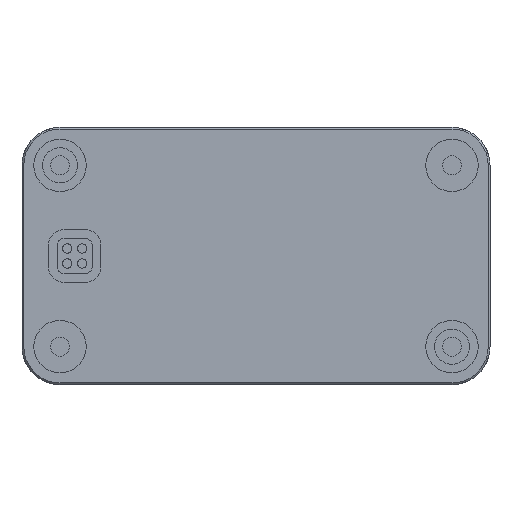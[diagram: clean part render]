
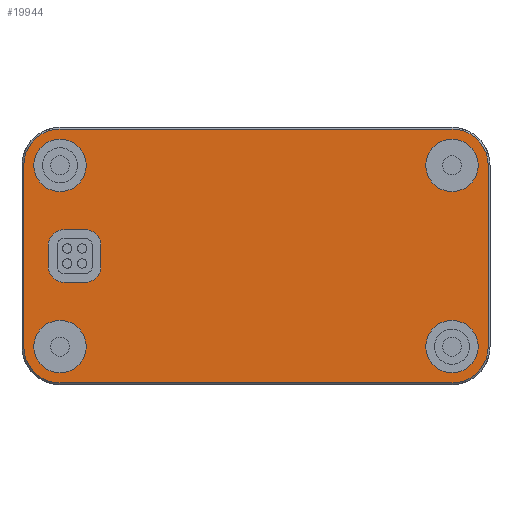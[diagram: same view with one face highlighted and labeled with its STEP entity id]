
A CAD part, front view. The second image highlights one B-rep face of the part: STEP entity #19944.
In plain terms, the highlighted planar face has unit normal (0, -1, 0).
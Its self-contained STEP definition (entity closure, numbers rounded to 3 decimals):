
#1718=FACE_BOUND('',#4384,.T.);
#1719=FACE_BOUND('',#4385,.T.);
#1720=FACE_BOUND('',#4386,.T.);
#1721=FACE_BOUND('',#4387,.T.);
#1722=FACE_BOUND('',#4388,.T.);
#2137=PLANE('',#20781);
#3185=FACE_OUTER_BOUND('',#4383,.T.);
#4383=EDGE_LOOP('',(#18123,#18124,#18125,#18126,#18127,#18128,#18129,#18130));
#4384=EDGE_LOOP('',(#18131,#18132,#18133,#18134,#18135,#18136,#18137,#18138));
#4385=EDGE_LOOP('',(#18139));
#4386=EDGE_LOOP('',(#18140));
#4387=EDGE_LOOP('',(#18141));
#4388=EDGE_LOOP('',(#18142));
#4566=LINE('',#24433,#6212);
#4569=LINE('',#24441,#6215);
#4572=LINE('',#24449,#6218);
#4575=LINE('',#24456,#6221);
#5987=LINE('',#44382,#7633);
#5991=LINE('',#44391,#7637);
#5994=LINE('',#44399,#7640);
#5997=LINE('',#44407,#7643);
#6212=VECTOR('',#21124,10.);
#6215=VECTOR('',#21133,10.);
#6218=VECTOR('',#21142,10.);
#6221=VECTOR('',#21151,10.);
#7633=VECTOR('',#23643,10.);
#7637=VECTOR('',#23653,10.);
#7640=VECTOR('',#23662,10.);
#7643=VECTOR('',#23671,10.);
#7852=CIRCLE('',#20219,2.7);
#7853=CIRCLE('',#20222,2.7);
#7854=CIRCLE('',#20225,2.7);
#7855=CIRCLE('',#20228,2.7);
#7962=CIRCLE('',#20771,6.2);
#7963=CIRCLE('',#20774,6.2);
#7964=CIRCLE('',#20777,6.2);
#7965=CIRCLE('',#20780,6.2);
#7966=CIRCLE('',#20782,4.485);
#7967=CIRCLE('',#20783,4.485);
#7968=CIRCLE('',#20784,4.485);
#7969=CIRCLE('',#20785,4.485);
#8102=VERTEX_POINT('',#24426);
#8103=VERTEX_POINT('',#24428);
#8104=VERTEX_POINT('',#24432);
#8105=VERTEX_POINT('',#24436);
#8106=VERTEX_POINT('',#24440);
#8107=VERTEX_POINT('',#24444);
#8108=VERTEX_POINT('',#24448);
#8109=VERTEX_POINT('',#24452);
#9792=VERTEX_POINT('',#44379);
#9793=VERTEX_POINT('',#44381);
#9794=VERTEX_POINT('',#44385);
#9795=VERTEX_POINT('',#44389);
#9796=VERTEX_POINT('',#44393);
#9797=VERTEX_POINT('',#44397);
#9798=VERTEX_POINT('',#44401);
#9799=VERTEX_POINT('',#44405);
#9800=VERTEX_POINT('',#44411);
#9801=VERTEX_POINT('',#44413);
#9802=VERTEX_POINT('',#44415);
#9803=VERTEX_POINT('',#44417);
#10055=EDGE_CURVE('',#8103,#8102,#7852,.T.);
#10057=EDGE_CURVE('',#8104,#8103,#4566,.T.);
#10059=EDGE_CURVE('',#8105,#8104,#7853,.T.);
#10061=EDGE_CURVE('',#8106,#8105,#4569,.T.);
#10063=EDGE_CURVE('',#8107,#8106,#7854,.T.);
#10065=EDGE_CURVE('',#8108,#8107,#4572,.T.);
#10067=EDGE_CURVE('',#8109,#8108,#7855,.T.);
#10069=EDGE_CURVE('',#8102,#8109,#4575,.T.);
#12605=EDGE_CURVE('',#9792,#9793,#5987,.T.);
#12608=EDGE_CURVE('',#9793,#9794,#7962,.T.);
#12610=EDGE_CURVE('',#9794,#9795,#5991,.T.);
#12612=EDGE_CURVE('',#9795,#9796,#7963,.T.);
#12614=EDGE_CURVE('',#9796,#9797,#5994,.T.);
#12616=EDGE_CURVE('',#9797,#9798,#7964,.T.);
#12618=EDGE_CURVE('',#9798,#9799,#5997,.T.);
#12619=EDGE_CURVE('',#9799,#9792,#7965,.T.);
#12620=EDGE_CURVE('',#9800,#9800,#7966,.T.);
#12621=EDGE_CURVE('',#9801,#9801,#7967,.T.);
#12622=EDGE_CURVE('',#9802,#9802,#7968,.T.);
#12623=EDGE_CURVE('',#9803,#9803,#7969,.T.);
#18123=ORIENTED_EDGE('',*,*,#12605,.F.);
#18124=ORIENTED_EDGE('',*,*,#12619,.F.);
#18125=ORIENTED_EDGE('',*,*,#12618,.F.);
#18126=ORIENTED_EDGE('',*,*,#12616,.F.);
#18127=ORIENTED_EDGE('',*,*,#12614,.F.);
#18128=ORIENTED_EDGE('',*,*,#12612,.F.);
#18129=ORIENTED_EDGE('',*,*,#12610,.F.);
#18130=ORIENTED_EDGE('',*,*,#12608,.F.);
#18131=ORIENTED_EDGE('',*,*,#10055,.T.);
#18132=ORIENTED_EDGE('',*,*,#10069,.T.);
#18133=ORIENTED_EDGE('',*,*,#10067,.T.);
#18134=ORIENTED_EDGE('',*,*,#10065,.T.);
#18135=ORIENTED_EDGE('',*,*,#10063,.T.);
#18136=ORIENTED_EDGE('',*,*,#10061,.T.);
#18137=ORIENTED_EDGE('',*,*,#10059,.T.);
#18138=ORIENTED_EDGE('',*,*,#10057,.T.);
#18139=ORIENTED_EDGE('',*,*,#12620,.F.);
#18140=ORIENTED_EDGE('',*,*,#12621,.F.);
#18141=ORIENTED_EDGE('',*,*,#12622,.F.);
#18142=ORIENTED_EDGE('',*,*,#12623,.F.);
#19944=ADVANCED_FACE('',(#3185,#1718,#1719,#1720,#1721,#1722),#2137,.F.);
#20219=AXIS2_PLACEMENT_3D('',#24429,#21119,#21120);
#20222=AXIS2_PLACEMENT_3D('',#24437,#21128,#21129);
#20225=AXIS2_PLACEMENT_3D('',#24445,#21137,#21138);
#20228=AXIS2_PLACEMENT_3D('',#24453,#21146,#21147);
#20771=AXIS2_PLACEMENT_3D('',#44387,#23648,#23649);
#20774=AXIS2_PLACEMENT_3D('',#44395,#23657,#23658);
#20777=AXIS2_PLACEMENT_3D('',#44403,#23666,#23667);
#20780=AXIS2_PLACEMENT_3D('',#44409,#23674,#23675);
#20781=AXIS2_PLACEMENT_3D('',#44410,#23676,#23677);
#20782=AXIS2_PLACEMENT_3D('',#44412,#23678,#23679);
#20783=AXIS2_PLACEMENT_3D('',#44414,#23680,#23681);
#20784=AXIS2_PLACEMENT_3D('',#44416,#23682,#23683);
#20785=AXIS2_PLACEMENT_3D('',#44418,#23684,#23685);
#21119=DIRECTION('center_axis',(0.,1.,0.));
#21120=DIRECTION('ref_axis',(-1.,0.,0.));
#21124=DIRECTION('',(-1.,0.,0.));
#21128=DIRECTION('center_axis',(0.,1.,0.));
#21129=DIRECTION('ref_axis',(0.,0.,-1.));
#21133=DIRECTION('',(0.,0.,-1.));
#21137=DIRECTION('center_axis',(0.,1.,0.));
#21138=DIRECTION('ref_axis',(1.,0.,0.));
#21142=DIRECTION('',(1.,0.,0.));
#21146=DIRECTION('center_axis',(0.,1.,0.));
#21147=DIRECTION('ref_axis',(0.,0.,1.));
#21151=DIRECTION('',(0.,0.,1.));
#23643=DIRECTION('',(-1.,0.,0.));
#23648=DIRECTION('center_axis',(0.,1.,0.));
#23649=DIRECTION('ref_axis',(0.,0.,-1.));
#23653=DIRECTION('',(0.,0.,1.));
#23657=DIRECTION('center_axis',(0.,1.,0.));
#23658=DIRECTION('ref_axis',(-1.,0.,0.));
#23662=DIRECTION('',(1.,0.,0.));
#23666=DIRECTION('center_axis',(0.,1.,0.));
#23667=DIRECTION('ref_axis',(0.,0.,1.));
#23671=DIRECTION('',(0.,0.,-1.));
#23674=DIRECTION('center_axis',(0.,1.,0.));
#23675=DIRECTION('ref_axis',(1.,0.,0.));
#23676=DIRECTION('center_axis',(0.,1.,0.));
#23677=DIRECTION('ref_axis',(0.,0.,1.));
#23678=DIRECTION('center_axis',(0.,-1.,0.));
#23679=DIRECTION('ref_axis',(-1.,0.,0.));
#23680=DIRECTION('center_axis',(0.,-1.,0.));
#23681=DIRECTION('ref_axis',(-1.,0.,0.));
#23682=DIRECTION('center_axis',(0.,-1.,0.));
#23683=DIRECTION('ref_axis',(-1.,0.,0.));
#23684=DIRECTION('center_axis',(0.,-1.,0.));
#23685=DIRECTION('ref_axis',(-1.,0.,0.));
#24426=CARTESIAN_POINT('',(-35.5,0.2,-1.8));
#24428=CARTESIAN_POINT('',(-32.8,0.2,-4.5));
#24429=CARTESIAN_POINT('Origin',(-32.8,0.2,-1.8));
#24432=CARTESIAN_POINT('',(-29.2,0.2,-4.5));
#24433=CARTESIAN_POINT('',(-16.4,0.2,-4.5));
#24436=CARTESIAN_POINT('',(-26.5,0.2,-1.8));
#24437=CARTESIAN_POINT('Origin',(-29.2,0.2,-1.8));
#24440=CARTESIAN_POINT('',(-26.5,0.2,1.8));
#24441=CARTESIAN_POINT('',(-26.5,0.2,-0.9));
#24444=CARTESIAN_POINT('',(-29.2,0.2,4.5));
#24445=CARTESIAN_POINT('Origin',(-29.2,0.2,1.8));
#24448=CARTESIAN_POINT('',(-32.8,0.2,4.5));
#24449=CARTESIAN_POINT('',(-14.6,0.2,4.5));
#24452=CARTESIAN_POINT('',(-35.5,0.2,1.8));
#24453=CARTESIAN_POINT('Origin',(-32.8,0.2,1.8));
#24456=CARTESIAN_POINT('',(-35.5,0.2,0.9));
#44379=CARTESIAN_POINT('',(33.5,0.2,-21.7));
#44381=CARTESIAN_POINT('',(-33.5,0.2,-21.7));
#44382=CARTESIAN_POINT('',(-16.75,0.2,-21.7));
#44385=CARTESIAN_POINT('',(-39.7,0.2,-15.5));
#44387=CARTESIAN_POINT('Origin',(-33.5,0.2,-15.5));
#44389=CARTESIAN_POINT('',(-39.7,0.2,15.5));
#44391=CARTESIAN_POINT('',(-39.7,0.2,7.75));
#44393=CARTESIAN_POINT('',(-33.5,0.2,21.7));
#44395=CARTESIAN_POINT('Origin',(-33.5,0.2,15.5));
#44397=CARTESIAN_POINT('',(33.5,0.2,21.7));
#44399=CARTESIAN_POINT('',(16.75,0.2,21.7));
#44401=CARTESIAN_POINT('',(39.7,0.2,15.5));
#44403=CARTESIAN_POINT('Origin',(33.5,0.2,15.5));
#44405=CARTESIAN_POINT('',(39.7,0.2,-15.5));
#44407=CARTESIAN_POINT('',(39.7,0.2,-7.75));
#44409=CARTESIAN_POINT('Origin',(33.5,0.2,-15.5));
#44410=CARTESIAN_POINT('Origin',(0.,0.2,0.));
#44411=CARTESIAN_POINT('',(-29.015,0.2,15.5));
#44412=CARTESIAN_POINT('Origin',(-33.5,0.2,15.5));
#44413=CARTESIAN_POINT('',(-29.015,0.2,-15.5));
#44414=CARTESIAN_POINT('Origin',(-33.5,0.2,-15.5));
#44415=CARTESIAN_POINT('',(37.985,0.2,-15.5));
#44416=CARTESIAN_POINT('Origin',(33.5,0.2,-15.5));
#44417=CARTESIAN_POINT('',(37.985,0.2,15.5));
#44418=CARTESIAN_POINT('Origin',(33.5,0.2,15.5));
